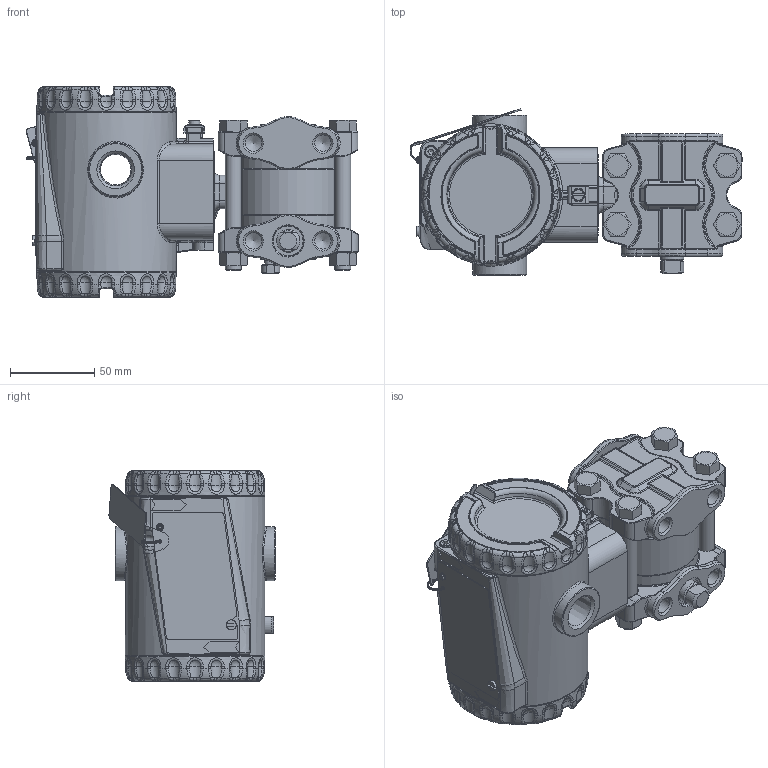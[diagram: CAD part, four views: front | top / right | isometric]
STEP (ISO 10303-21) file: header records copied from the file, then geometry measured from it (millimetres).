
FILE_DESCRIPTION(/* description */ (''),/* implementation_level */ '2;1');
FILE_NAME(/* name */ 'F:\Area\Desenvolvimento_2\Projects\Sensor\projetos\LD400-3d\dimensionais 3D clientes\LD400M5 1-4NPT purga acima.stp',/* time_stamp */ '2023-02-02T14:28:29-03:00',/* author */ ('inventor02'),/* organization */ (''),/* preprocessor_version */ 'ST-DEVELOPER v17',/* originating_system */ 'Autodesk Inventor 2019',/* authorisation */ '');
FILE_SCHEMA (('CONFIG_CONTROL_DESIGN'));
Products named in the file (30): LD400M5 1-4NPT purga acima; Carcaça 400 com tampas e plaqueta sem letras; 101-D-0845-05 carcaça LD400 sem letras; 101-B-3614-03-tampa 400 sem letras; Tampa visor 400 montada sem letras; 101-B-3612-05 tampa visor 400 sem letras; 101-A-6107; oring 2034; 00034775-0; WHW_250; DIN 915 - M6 x 10; Chapa aterramento externo; 201-A-1771-02 inserto terra recartilhado; AS 1969 - ST4,2; ISO 1207 - M4 x 8; ANSI B18.3.1M - M4x0,7 x 8; Subconjunto plaqueta 400; plaqueta 400 em branco; Parafuso da Plaqueta; Rebite da Plaqueta; 096-A-0169-03; 101-A-0502-01; manometrico standard fx5 purga acima; flange batente standard; flange diferencial std purga; bujao 1-4NPT; Sangria; Paraf. 3-8 x 16 UNC; Porca 3-8 x 16 UNC; involucro fx5 apos a usinagem final
Assembly tree (36 placements, depth 4):
  LD400M5 1-4NPT purga acima
    Carcaça 400 com tampas e plaqueta sem letras
      101-D-0845-05 carcaça LD400 sem letras
      101-B-3614-03-tampa 400 sem letras
      Tampa visor 400 montada sem letras
        101-B-3612-05 tampa visor 400 sem letras
        101-A-6107
        oring 2034
        00034775-0
        WHW_250
      DIN 915 - M6 x 10
      Chapa aterramento externo
      201-A-1771-02 inserto terra recartilhado
      AS 1969 - ST4,2
      ISO 1207 - M4 x 8
      ANSI B18.3.1M - M4x0,7 x 8  x2
      Subconjunto plaqueta 400
        plaqueta 400 em branco
        Parafuso da Plaqueta
        Rebite da Plaqueta
        096-A-0169-03
        101-A-0502-01
    manometrico standard fx5 purga acima
      flange batente standard
      flange diferencial std purga
      bujao 1-4NPT
      Sangria
      Paraf. 3-8 x 16 UNC  x4
      Porca 3-8 x 16 UNC  x4
      involucro fx5 apos a usinagem final
Bounding box: 197.25 x 98.64 x 125 mm (x, y, z)
Volume: 618666.8 mm3; surface area: 233098.1 mm2
Topology: 32 solids, 32 shells, 2578 faces, 6238 edges, 3710 vertices
Faces by surface type: plane 640, cylinder 621, bspline 613, torus 442, cone 191, sphere 71
Full cylindrical faces by diameter (mm): 2 x3, 2.1 x1, 2.2 x1, 2.459 x3, 2.7 x1, 3 x3, 3.242 x3, 3.571 x1, 4 x4, 4.3 x2, 4.4 x1, 4.917 x1, 5.5 x4, 6 x2, 6.1 x2, 6.2 x1, 6.647 x1, 7 x3, 7.6 x2, 7.798 x4, 8 x1, 9.525 x4, 9.728 x8, 10.5 x8, 10.719 x2, 13.8 x1, 14 x1, 18.3 x2, 18.5 x2, 32 x2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
Entity records: 93347 total; most frequent: CARTESIAN_POINT 35900, ORIENTED_EDGE 11964, DIRECTION 11788, EDGE_CURVE 5982, AXIS2_PLACEMENT_3D 5017, VERTEX_POINT 3584, CIRCLE 2894, EDGE_LOOP 2588
